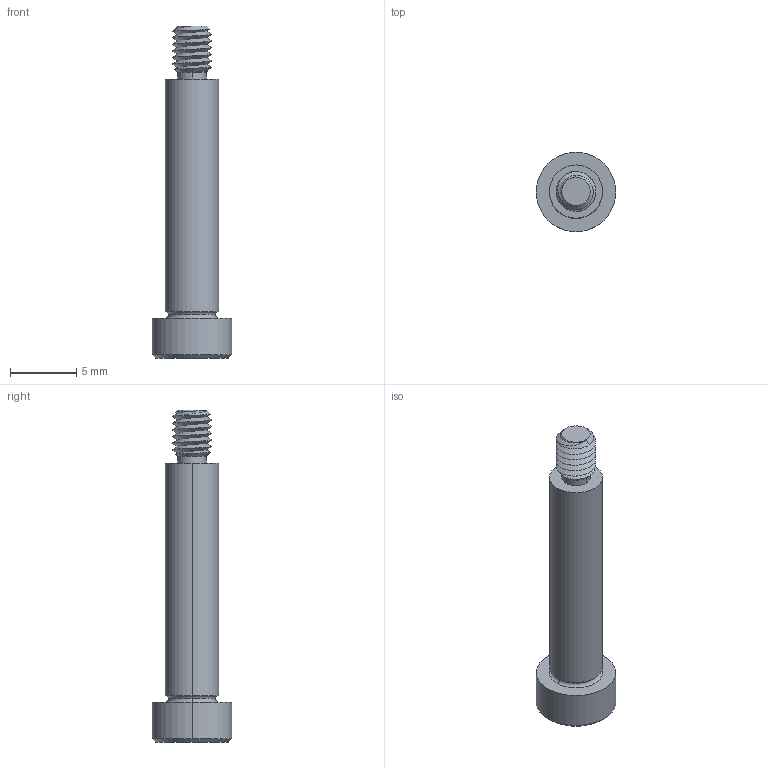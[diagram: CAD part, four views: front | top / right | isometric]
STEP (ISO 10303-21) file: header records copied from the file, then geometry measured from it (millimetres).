
FILE_DESCRIPTION (( 'STEP AP203' ), '1' );
FILE_NAME ('P0130.040-018-B2.step', '2021-11-09T21:05:23', ( '' ), ( '' ), 'SwSTEP 2.0', 'SolidWorks 2019', '' );
FILE_SCHEMA (( 'CONFIG_CONTROL_DESIGN' ));
Length unit declared in the file: millimetre
Products named in the file (1): P0130.040-018-B2
Bounding box: 6 x 6 x 25 mm (x, y, z)
Volume: 321.4 mm3; surface area: 410.5 mm2
Topology: 1 solids, 1 shells, 54 faces, 124 edges, 73 vertices
Faces by surface type: cylinder 18, plane 16, cone 14, torus 4, bspline 2
Entity records: 2218 total; most frequent: CARTESIAN_POINT 1016, ORIENTED_EDGE 244, DIRECTION 229, EDGE_CURVE 122, AXIS2_PLACEMENT_3D 93, VERTEX_POINT 73, EDGE_LOOP 57, FACE_OUTER_BOUND 54
